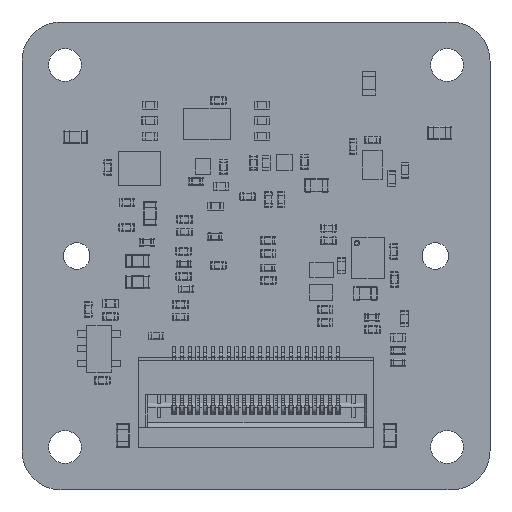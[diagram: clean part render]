
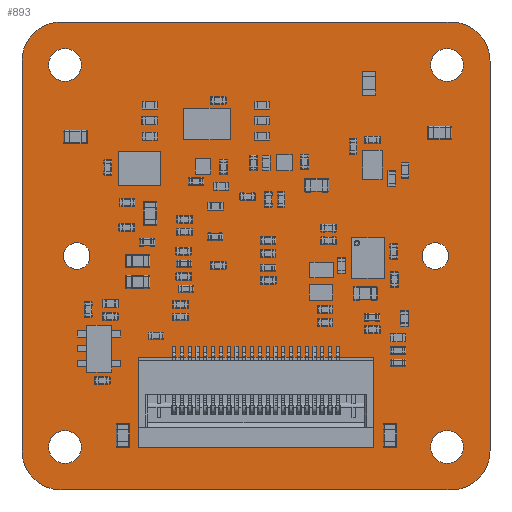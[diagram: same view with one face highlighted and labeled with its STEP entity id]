
A CAD part, top view. The second image highlights one B-rep face of the part: STEP entity #893.
In plain terms, the highlighted planar face has unit normal (0, 0, 1).
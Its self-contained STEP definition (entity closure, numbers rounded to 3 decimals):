
#412 = VERTEX_POINT('',#413);
#413 = CARTESIAN_POINT('',(0.,2.5,1.002));
#419 = EDGE_CURVE('',#412,#420,#422,.T.);
#420 = VERTEX_POINT('',#421);
#421 = CARTESIAN_POINT('',(-0.006,27.5,1.002));
#422 = LINE('',#423,#424);
#423 = CARTESIAN_POINT('',(0.,2.5,1.002));
#424 = VECTOR('',#425,1.);
#425 = DIRECTION('',(0.,1.,0.));
#450 = EDGE_CURVE('',#420,#451,#453,.T.);
#451 = VERTEX_POINT('',#452);
#452 = CARTESIAN_POINT('',(2.5,30.,1.002));
#453 = CIRCLE('',#454,2.496);
#454 = AXIS2_PLACEMENT_3D('',#455,#456,#457);
#455 = CARTESIAN_POINT('',(2.49,27.504,1.002));
#456 = DIRECTION('',(0.,0.,-1.));
#457 = DIRECTION('',(-1.,-0.002,-0.));
#483 = EDGE_CURVE('',#451,#484,#486,.T.);
#484 = VERTEX_POINT('',#485);
#485 = CARTESIAN_POINT('',(27.5,30.,1.002));
#486 = LINE('',#487,#488);
#487 = CARTESIAN_POINT('',(2.5,30.,1.002));
#488 = VECTOR('',#489,1.);
#489 = DIRECTION('',(1.,0.,0.));
#514 = EDGE_CURVE('',#484,#515,#517,.T.);
#515 = VERTEX_POINT('',#516);
#516 = CARTESIAN_POINT('',(30.,27.5,1.002));
#517 = CIRCLE('',#518,2.499);
#518 = AXIS2_PLACEMENT_3D('',#519,#520,#521);
#519 = CARTESIAN_POINT('',(27.501,27.501,1.002));
#520 = DIRECTION('',(0.,0.,-1.));
#521 = DIRECTION('',(0.,1.,0.));
#547 = EDGE_CURVE('',#515,#548,#550,.T.);
#548 = VERTEX_POINT('',#549);
#549 = CARTESIAN_POINT('',(30.,2.5,1.002));
#550 = LINE('',#551,#552);
#551 = CARTESIAN_POINT('',(30.,27.5,1.002));
#552 = VECTOR('',#553,1.);
#553 = DIRECTION('',(0.,-1.,0.));
#578 = EDGE_CURVE('',#548,#579,#581,.T.);
#579 = VERTEX_POINT('',#580);
#580 = CARTESIAN_POINT('',(27.5,0.,1.002));
#581 = CIRCLE('',#582,2.499);
#582 = AXIS2_PLACEMENT_3D('',#583,#584,#585);
#583 = CARTESIAN_POINT('',(27.501,2.499,1.002));
#584 = DIRECTION('',(0.,0.,-1.));
#585 = DIRECTION('',(1.,0.,0.));
#611 = EDGE_CURVE('',#579,#612,#614,.T.);
#612 = VERTEX_POINT('',#613);
#613 = CARTESIAN_POINT('',(2.5,0.,1.002));
#614 = LINE('',#615,#616);
#615 = CARTESIAN_POINT('',(27.5,0.,1.002));
#616 = VECTOR('',#617,1.);
#617 = DIRECTION('',(-1.,0.,0.));
#642 = EDGE_CURVE('',#612,#412,#643,.T.);
#643 = CIRCLE('',#644,2.499);
#644 = AXIS2_PLACEMENT_3D('',#645,#646,#647);
#645 = CARTESIAN_POINT('',(2.499,2.499,1.002));
#646 = DIRECTION('',(0.,0.,-1.));
#647 = DIRECTION('',(0.,-1.,0.));
#668 = VERTEX_POINT('',#669);
#669 = CARTESIAN_POINT('',(3.8,2.75,1.002));
#675 = EDGE_CURVE('',#668,#668,#676,.T.);
#676 = CIRCLE('',#677,1.05);
#677 = AXIS2_PLACEMENT_3D('',#678,#679,#680);
#678 = CARTESIAN_POINT('',(2.75,2.75,1.002));
#679 = DIRECTION('',(0.,0.,1.));
#680 = DIRECTION('',(1.,0.,-0.));
#701 = VERTEX_POINT('',#702);
#702 = CARTESIAN_POINT('',(3.8,27.25,1.002));
#708 = EDGE_CURVE('',#701,#701,#709,.T.);
#709 = CIRCLE('',#710,1.05);
#710 = AXIS2_PLACEMENT_3D('',#711,#712,#713);
#711 = CARTESIAN_POINT('',(2.75,27.25,1.002));
#712 = DIRECTION('',(0.,0.,1.));
#713 = DIRECTION('',(1.,0.,-0.));
#734 = VERTEX_POINT('',#735);
#735 = CARTESIAN_POINT('',(4.35,15.,1.002));
#741 = EDGE_CURVE('',#734,#734,#742,.T.);
#742 = CIRCLE('',#743,0.85);
#743 = AXIS2_PLACEMENT_3D('',#744,#745,#746);
#744 = CARTESIAN_POINT('',(3.5,15.,1.002));
#745 = DIRECTION('',(0.,0.,1.));
#746 = DIRECTION('',(1.,0.,-0.));
#767 = VERTEX_POINT('',#768);
#768 = CARTESIAN_POINT('',(28.3,2.75,1.002));
#774 = EDGE_CURVE('',#767,#767,#775,.T.);
#775 = CIRCLE('',#776,1.05);
#776 = AXIS2_PLACEMENT_3D('',#777,#778,#779);
#777 = CARTESIAN_POINT('',(27.25,2.75,1.002));
#778 = DIRECTION('',(0.,0.,1.));
#779 = DIRECTION('',(1.,0.,-0.));
#800 = VERTEX_POINT('',#801);
#801 = CARTESIAN_POINT('',(27.35,15.,1.002));
#807 = EDGE_CURVE('',#800,#800,#808,.T.);
#808 = CIRCLE('',#809,0.85);
#809 = AXIS2_PLACEMENT_3D('',#810,#811,#812);
#810 = CARTESIAN_POINT('',(26.5,15.,1.002));
#811 = DIRECTION('',(0.,0.,1.));
#812 = DIRECTION('',(1.,0.,-0.));
#833 = VERTEX_POINT('',#834);
#834 = CARTESIAN_POINT('',(28.3,27.25,1.002));
#840 = EDGE_CURVE('',#833,#833,#841,.T.);
#841 = CIRCLE('',#842,1.05);
#842 = AXIS2_PLACEMENT_3D('',#843,#844,#845);
#843 = CARTESIAN_POINT('',(27.25,27.25,1.002));
#844 = DIRECTION('',(0.,0.,1.));
#845 = DIRECTION('',(1.,0.,-0.));
#893 = ADVANCED_FACE('',(#894,#904,#907,#910,#913,#916,#919),#922,.F.);
#894 = FACE_BOUND('',#895,.F.);
#895 = EDGE_LOOP('',(#896,#897,#898,#899,#900,#901,#902,#903));
#896 = ORIENTED_EDGE('',*,*,#419,.T.);
#897 = ORIENTED_EDGE('',*,*,#450,.T.);
#898 = ORIENTED_EDGE('',*,*,#483,.T.);
#899 = ORIENTED_EDGE('',*,*,#514,.T.);
#900 = ORIENTED_EDGE('',*,*,#547,.T.);
#901 = ORIENTED_EDGE('',*,*,#578,.T.);
#902 = ORIENTED_EDGE('',*,*,#611,.T.);
#903 = ORIENTED_EDGE('',*,*,#642,.T.);
#904 = FACE_BOUND('',#905,.F.);
#905 = EDGE_LOOP('',(#906));
#906 = ORIENTED_EDGE('',*,*,#675,.T.);
#907 = FACE_BOUND('',#908,.F.);
#908 = EDGE_LOOP('',(#909));
#909 = ORIENTED_EDGE('',*,*,#708,.T.);
#910 = FACE_BOUND('',#911,.F.);
#911 = EDGE_LOOP('',(#912));
#912 = ORIENTED_EDGE('',*,*,#741,.T.);
#913 = FACE_BOUND('',#914,.F.);
#914 = EDGE_LOOP('',(#915));
#915 = ORIENTED_EDGE('',*,*,#774,.T.);
#916 = FACE_BOUND('',#917,.F.);
#917 = EDGE_LOOP('',(#918));
#918 = ORIENTED_EDGE('',*,*,#807,.T.);
#919 = FACE_BOUND('',#920,.F.);
#920 = EDGE_LOOP('',(#921));
#921 = ORIENTED_EDGE('',*,*,#840,.T.);
#922 = PLANE('',#923);
#923 = AXIS2_PLACEMENT_3D('',#924,#925,#926);
#924 = CARTESIAN_POINT('',(14.998,15.001,1.002));
#925 = DIRECTION('',(-0.,-0.,-1.));
#926 = DIRECTION('',(-1.,0.,0.));
